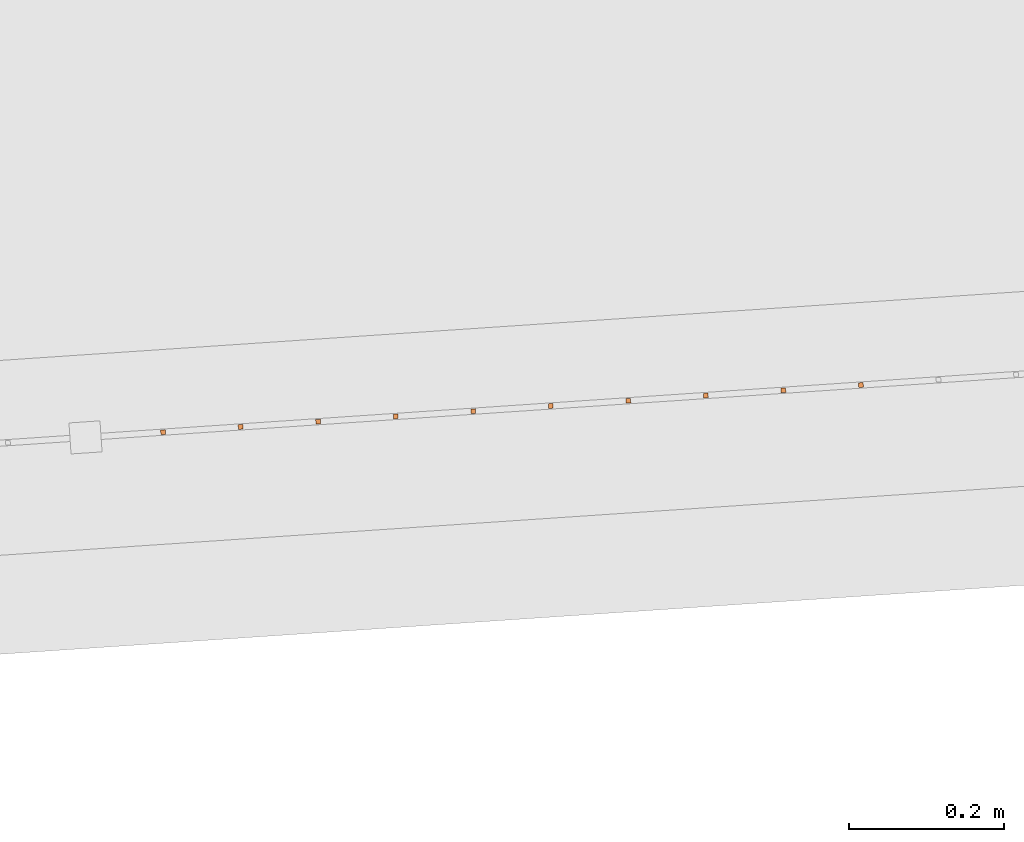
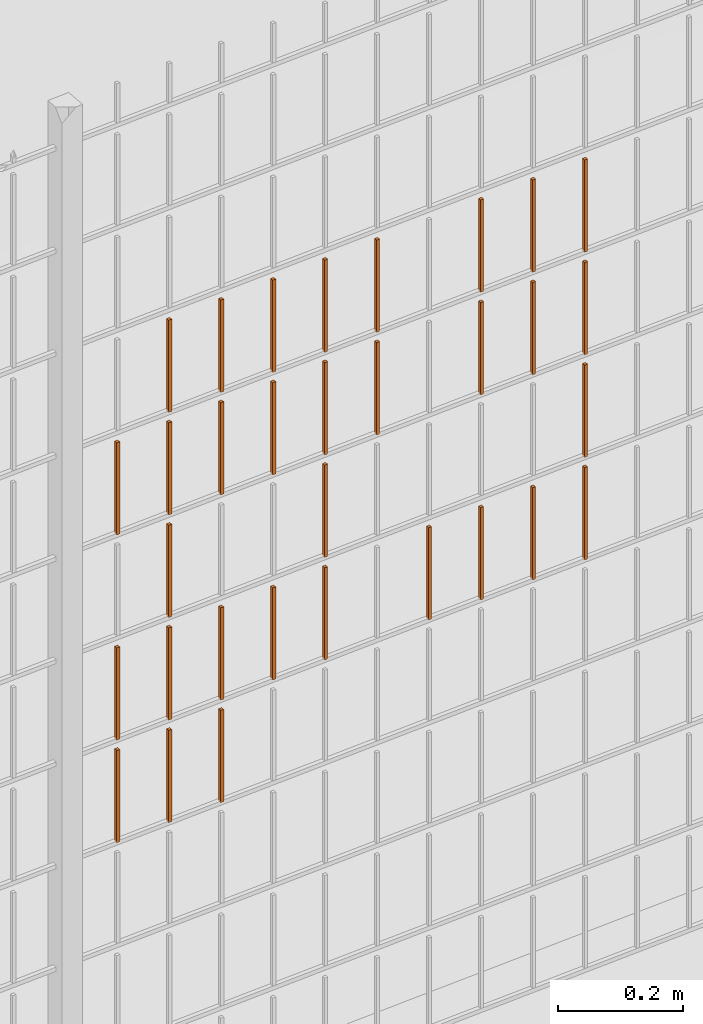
# One storey, part 323 of 1809: 32 proxies, 1 element without a shape of its own.
"""IFC2X3 building model written with IfcOpenShell, lengths in millimetres."""

from ifc_helpers import new_model, entity, si_unit, converted_unit, derived_unit, money_unit, direction, frame, origin_with_axes, place, context, subcontext, project, spatial, faceted_brep, source, transform, mapped, material, type_object, element, aggregate, save


model = new_model("IFC2X3")

# Units and contexts
model_context = context("Model", 3, precision=0.01, world=origin_with_axes(), true_north=direction((0.0, 1.0)))
body_context = subcontext(model_context, "Body", "Model", "MODEL_VIEW")
ifc_project = project(units=[si_unit("LENGTHUNIT", "METRE", prefix="MILLI"), si_unit("AREAUNIT", "SQUARE_METRE"), si_unit("VOLUMEUNIT", "CUBIC_METRE"), converted_unit("PLANEANGLEUNIT", "DEGREE", entity("IfcPlaneAngleMeasure", 0.0174532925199), si_unit("PLANEANGLEUNIT", "RADIAN"), dimensions=[0, 0, 0, 0, 0, 0, 0]), si_unit("SOLIDANGLEUNIT", "STERADIAN"), money_unit("EUR"), converted_unit("TIMEUNIT", "Year", entity("IfcTimeMeasure", 31556926.0), si_unit("TIMEUNIT", "SECOND"), dimensions=[0, 0, 1, 0, 0, 0, 0]), si_unit("MASSUNIT", "GRAM", prefix="KILO"), si_unit("THERMODYNAMICTEMPERATUREUNIT", "DEGREE_CELSIUS"), si_unit("LUMINOUSINTENSITYUNIT", "LUMEN"), si_unit("ENERGYUNIT", "JOULE", prefix="MEGA"), derived_unit("THERMALCONDUCTANCEUNIT", [(si_unit("POWERUNIT", "WATT"), 1), (si_unit("LENGTHUNIT", "METRE"), -1), (si_unit("THERMODYNAMICTEMPERATUREUNIT", "KELVIN"), -1)]), derived_unit("SPECIFICHEATCAPACITYUNIT", [(si_unit("ENERGYUNIT", "JOULE"), 1), (si_unit("MASSUNIT", "GRAM", prefix="KILO"), -1), (si_unit("THERMODYNAMICTEMPERATUREUNIT", "KELVIN"), -1)]), derived_unit("MASSDENSITYUNIT", [(si_unit("MASSUNIT", "GRAM", prefix="KILO"), 1), (si_unit("VOLUMEUNIT", "CUBIC_METRE"), -1)])], contexts=[model_context])

# Site, building, storey
site_placement = place(None, origin_with_axes())
site = spatial("IfcSite", under=ifc_project, at=site_placement, Name="Politse- ja Piirivalveameti ning Päästeameti ühishoone", CompositionType="ELEMENT")
building_placement = place(site_placement, origin_with_axes())
building = spatial("IfcBuilding", under=site, at=building_placement, Name="Politse- ja Piirivalveameti ning Päästeameti ühishoone", CompositionType="ELEMENT")
storey_placement = place(building_placement, origin_with_axes())
storey = spatial("IfcBuildingStorey", under=building, at=storey_placement, Name="Esimene korrus", CompositionType="ELEMENT", Elevation=0.0)

# Proxies
building_element_proxy_type_1 = type_object("IfcBuildingElementProxyType", Name="Railing Type", PredefinedType="NOTDEFINED")
proxy_1_placement = place(storey_placement, frame((89252.001212, -29183.4766571, 203.661247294), z_axis=(0.0, 0.0, 1.0), x_axis=(1.0, 0.0, 0.0)))
proxy_1 = element("IfcBuildingElementProxy", 1, at=proxy_1_placement, inside=storey, type_object=building_element_proxy_type_1, Name="PIIRDEAED")
ifc_material = material(Name="ET-03_Raud")
building_element_proxy_type_2 = type_object("IfcBuildingElementProxyType", Name="IfcBuildingElementProxy", PredefinedType="NOTDEFINED")
shared_shape_1 = source(origin_with_axes(), body_context, "Body", "Brep", [
    faceted_brep([(3.0, 3.0, -0.000752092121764), (-3.0, 3.0, -0.000752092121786), (-3.0, 3.0, 179.99926046), (3.0, 3.0, 179.99926046), (3.0, -3.0, 0.000752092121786), (-3.0, -3.0, 0.000752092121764), (-3.0, -3.0, 180.000764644), (3.0, -3.0, 180.000764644)], [[[0, 1, 2, 3]], [[0, 4, 5, 1]], [[1, 5, 6, 2]], [[3, 2, 6, 7]], [[4, 0, 3, 7]], [[5, 4, 7, 6]]]),
])
proxy_2_placement = place(proxy_1_placement, frame((-37142.0542199, -19806.5803551, 617.901752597), z_axis=(0.0, 0.0, 1.0), x_axis=(1.0, 0.0, 0.0)))
proxy_2 = element("IfcBuildingElementProxy", 2, at=proxy_2_placement, type_object=building_element_proxy_type_2, material=ifc_material, Name="BALUSTER - 001", context=body_context, shape_type="MappedRepresentation", body=[
    mapped(shared_shape_1, transform((0.0, 0.0, 0.0), x_axis=(-0.0673926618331, 0.997726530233, 0.0), y_axis=(-0.997726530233, -0.0673926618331, 0.0), z_axis=(0.0, 0.0, 1.0))),
])
shared_shape_2 = source(origin_with_axes(), body_context, "Body", "Brep", [
    faceted_brep([(3.0, 3.0, -0.000752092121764), (-3.0, 3.0, -0.000752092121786), (-3.0, 3.0, 179.99926046), (3.0, 3.0, 179.99926046), (3.0, -3.0, 0.000752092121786), (-3.0, -3.0, 0.000752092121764), (-3.0, -3.0, 180.000764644), (3.0, -3.0, 180.000764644)], [[[0, 1, 2, 3]], [[0, 4, 5, 1]], [[1, 5, 6, 2]], [[3, 2, 6, 7]], [[4, 0, 3, 7]], [[5, 4, 7, 6]]]),
])
proxy_3_placement = place(proxy_1_placement, frame((-37142.0542199, -19806.5803551, 817.901752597), z_axis=(0.0, 0.0, 1.0), x_axis=(1.0, 0.0, 0.0)))
proxy_3 = element("IfcBuildingElementProxy", 3, at=proxy_3_placement, type_object=building_element_proxy_type_2, material=ifc_material, Name="BALUSTER - 001", context=body_context, shape_type="MappedRepresentation", body=[
    mapped(shared_shape_2, transform((0.0, 0.0, 0.0), x_axis=(-0.0673926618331, 0.997726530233, 0.0), y_axis=(-0.997726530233, -0.0673926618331, 0.0), z_axis=(0.0, 0.0, 1.0))),
])
proxy_4_placement = place(proxy_1_placement, frame((-37142.0542199, -19806.5803551, 1217.9017526), z_axis=(0.0, 0.0, 1.0), x_axis=(1.0, 0.0, 0.0)))
proxy_4 = element("IfcBuildingElementProxy", 4, at=proxy_4_placement, type_object=building_element_proxy_type_2, material=ifc_material, Name="BALUSTER - 001", context=body_context, shape_type="MappedRepresentation", body=[
    mapped(shared_shape_2, transform((0.0, 0.0, 0.0), x_axis=(-0.0673926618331, 0.997726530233, 0.0), y_axis=(-0.997726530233, -0.0673926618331, 0.0), z_axis=(0.0, 0.0, 1.0))),
])
shared_shape_3 = source(origin_with_axes(), body_context, "Body", "Brep", [
    faceted_brep([(3.0, 3.0, -0.000752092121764), (-3.0, 3.0, -0.000752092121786), (-3.0, 3.0, 179.99926046), (3.0, 3.0, 179.99926046), (3.0, -3.0, 0.000752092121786), (-3.0, -3.0, 0.000752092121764), (-3.0, -3.0, 180.000764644), (3.0, -3.0, 180.000764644)], [[[0, 1, 2, 3]], [[0, 4, 5, 1]], [[1, 5, 6, 2]], [[3, 2, 6, 7]], [[4, 0, 3, 7]], [[5, 4, 7, 6]]]),
])
proxy_5_placement = place(proxy_1_placement, frame((-37042.2815668, -19799.8410889, 1217.92682233), z_axis=(0.0, 0.0, 1.0), x_axis=(1.0, 0.0, 0.0)))
proxy_5 = element("IfcBuildingElementProxy", 5, at=proxy_5_placement, type_object=building_element_proxy_type_2, material=ifc_material, Name="BALUSTER - 001", context=body_context, shape_type="MappedRepresentation", body=[
    mapped(shared_shape_3, transform((0.0, 0.0, 0.0), x_axis=(-0.0673926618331, 0.997726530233, 0.0), y_axis=(-0.997726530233, -0.0673926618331, 0.0), z_axis=(0.0, 0.0, 1.0))),
])
shared_shape_4 = source(origin_with_axes(), body_context, "Body", "Brep", [
    faceted_brep([(3.0, 3.0, -0.000752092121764), (-3.0, 3.0, -0.000752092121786), (-3.0, 3.0, 179.99926046), (3.0, 3.0, 179.99926046), (3.0, -3.0, 0.000752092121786), (-3.0, -3.0, 0.000752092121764), (-3.0, -3.0, 180.000764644), (3.0, -3.0, 180.000764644)], [[[0, 1, 2, 3]], [[0, 4, 5, 1]], [[1, 5, 6, 2]], [[3, 2, 6, 7]], [[4, 0, 3, 7]], [[5, 4, 7, 6]]]),
])
proxy_6_placement = place(proxy_1_placement, frame((-37042.2815668, -19799.8410889, 1417.92682233), z_axis=(0.0, 0.0, 1.0), x_axis=(1.0, 0.0, 0.0)))
proxy_6 = element("IfcBuildingElementProxy", 6, at=proxy_6_placement, type_object=building_element_proxy_type_2, material=ifc_material, Name="BALUSTER - 001", context=body_context, shape_type="MappedRepresentation", body=[
    mapped(shared_shape_4, transform((0.0, 0.0, 0.0), x_axis=(-0.0673926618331, 0.997726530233, 0.0), y_axis=(-0.997726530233, -0.0673926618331, 0.0), z_axis=(0.0, 0.0, 1.0))),
])
shared_shape_5 = source(origin_with_axes(), body_context, "Body", "Brep", [
    faceted_brep([(3.0, 3.0, -0.000752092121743), (-3.0, 3.0, -0.000752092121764), (-3.0, 3.0, 179.99926046), (3.0, 3.0, 179.99926046), (3.0, -3.0, 0.000752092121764), (-3.0, -3.0, 0.000752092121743), (-3.0, -3.0, 180.000764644), (3.0, -3.0, 180.000764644)], [[[0, 1, 2, 3]], [[0, 4, 5, 1]], [[1, 5, 6, 2]], [[3, 2, 6, 7]], [[4, 0, 3, 7]], [[5, 4, 7, 6]]]),
])
proxy_7_placement = place(proxy_1_placement, frame((-36343.8729957, -19752.6662256, 818.102310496), z_axis=(0.0, 0.0, 1.0), x_axis=(1.0, 0.0, 0.0)))
proxy_7 = element("IfcBuildingElementProxy", 7, at=proxy_7_placement, type_object=building_element_proxy_type_2, material=ifc_material, Name="BALUSTER - 001", context=body_context, shape_type="MappedRepresentation", body=[
    mapped(shared_shape_5, transform((0.0, 0.0, 0.0), x_axis=(-0.0673926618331, 0.997726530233, 0.0), y_axis=(-0.997726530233, -0.0673926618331, 0.0), z_axis=(0.0, 0.0, 1.0))),
])
shared_shape_6 = source(origin_with_axes(), body_context, "Body", "Brep", [
    faceted_brep([(3.0, 3.0, -0.000752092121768), (-3.0, 3.0, -0.000752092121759), (-3.00000000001, 2.99999999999, 179.99926046), (2.99999999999, 2.99999999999, 179.99926046), (3.0, -3.0, 0.000752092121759), (-3.0, -3.0, 0.000752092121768), (-3.00000000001, -3.00000000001, 180.000764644), (2.99999999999, -3.00000000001, 180.000764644)], [[[0, 1, 2, 3]], [[0, 4, 5, 1]], [[1, 5, 6, 2]], [[3, 2, 6, 7]], [[4, 0, 3, 7]], [[5, 4, 7, 6]]]),
])
proxy_8_placement = place(proxy_1_placement, frame((-36742.9636078, -19779.6232904, 1018.00203155), z_axis=(0.0, 0.0, 1.0), x_axis=(1.0, 0.0, 0.0)))
proxy_8 = element("IfcBuildingElementProxy", 8, at=proxy_8_placement, type_object=building_element_proxy_type_2, material=ifc_material, Name="BALUSTER - 001", context=body_context, shape_type="MappedRepresentation", body=[
    mapped(shared_shape_6, transform((0.0, 0.0, 0.0), x_axis=(-0.0673926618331, 0.997726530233, 0.0), y_axis=(-0.997726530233, -0.0673926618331, 0.0), z_axis=(0.0, 0.0, 1.0))),
])
shared_shape_7 = source(origin_with_axes(), body_context, "Body", "Brep", [
    faceted_brep([(3.0, 3.0, -0.000752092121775), (-3.0, 3.0, -0.000752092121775), (-3.0, 3.0, 179.99926046), (3.0, 3.0, 179.99926046), (3.0, -3.0, 0.000752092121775), (-3.0, -3.0, 0.000752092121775), (-3.0, -3.0, 180.000764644), (3.0, -3.0, 180.000764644)], [[[0, 1, 2, 3]], [[0, 4, 5, 1]], [[1, 5, 6, 2]], [[3, 2, 6, 7]], [[4, 0, 3, 7]], [[5, 4, 7, 6]]]),
])
proxy_9_placement = place(proxy_1_placement, frame((-36543.4183017, -19766.144758, 818.052171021), z_axis=(0.0, 0.0, 1.0), x_axis=(1.0, 0.0, 0.0)))
proxy_9 = element("IfcBuildingElementProxy", 9, at=proxy_9_placement, type_object=building_element_proxy_type_2, material=ifc_material, Name="BALUSTER - 001", context=body_context, shape_type="MappedRepresentation", body=[
    mapped(shared_shape_7, transform((0.0, 0.0, 0.0), x_axis=(-0.0673926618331, 0.997726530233, 0.0), y_axis=(-0.997726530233, -0.0673926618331, 0.0), z_axis=(0.0, 0.0, 1.0))),
])
shared_shape_8 = source(origin_with_axes(), body_context, "Body", "Brep", [
    faceted_brep([(3.0, 3.0, -0.000752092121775), (-3.0, 3.0, -0.000752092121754), (-3.0, 3.0, 179.99926046), (3.0, 3.0, 179.99926046), (3.0, -3.0, 0.000752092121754), (-3.0, -3.0, 0.000752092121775), (-3.0, -3.0, 180.000764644), (3.0, -3.0, 180.000764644)], [[[0, 1, 2, 3]], [[0, 4, 5, 1]], [[1, 5, 6, 2]], [[3, 2, 6, 7]], [[4, 0, 3, 7]], [[5, 4, 7, 6]]]),
])
proxy_10_placement = place(proxy_1_placement, frame((-36742.9636078, -19779.6232904, 818.002031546), z_axis=(0.0, 0.0, 1.0), x_axis=(1.0, 0.0, 0.0)))
proxy_10 = element("IfcBuildingElementProxy", 10, at=proxy_10_placement, type_object=building_element_proxy_type_2, material=ifc_material, Name="BALUSTER - 001", context=body_context, shape_type="MappedRepresentation", body=[
    mapped(shared_shape_8, transform((0.0, 0.0, 0.0), x_axis=(-0.0673926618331, 0.997726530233, 0.0), y_axis=(-0.997726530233, -0.0673926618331, 0.0), z_axis=(0.0, 0.0, 1.0))),
])
shared_shape_9 = source(origin_with_axes(), body_context, "Body", "Brep", [
    faceted_brep([(3.0, 3.0, -0.000752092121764), (-3.0, 3.0, -0.000752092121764), (-3.0, 3.0, 179.99926046), (3.0, 3.0, 179.99926046), (3.0, -3.0, 0.000752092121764), (-3.0, -3.0, 0.000752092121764), (-3.0, -3.0, 180.000764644), (3.0, -3.0, 180.000764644)], [[[0, 1, 2, 3]], [[0, 4, 5, 1]], [[1, 5, 6, 2]], [[3, 2, 6, 7]], [[4, 0, 3, 7]], [[5, 4, 7, 6]]]),
])
proxy_11_placement = place(proxy_1_placement, frame((-36742.9636078, -19779.6232904, 1218.00203155), z_axis=(0.0, 0.0, 1.0), x_axis=(1.0, 0.0, 0.0)))
proxy_11 = element("IfcBuildingElementProxy", 11, at=proxy_11_placement, type_object=building_element_proxy_type_2, material=ifc_material, Name="BALUSTER - 001", context=body_context, shape_type="MappedRepresentation", body=[
    mapped(shared_shape_9, transform((0.0, 0.0, 0.0), x_axis=(-0.0673926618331, 0.997726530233, 0.0), y_axis=(-0.997726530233, -0.0673926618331, 0.0), z_axis=(0.0, 0.0, 1.0))),
])
shared_shape_10 = source(origin_with_axes(), body_context, "Body", "Brep", [
    faceted_brep([(3.0, 3.0, -0.000752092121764), (-3.0, 3.0, -0.000752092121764), (-3.0, 3.0, 179.99926046), (3.0, 3.0, 179.99926046), (3.0, -3.0, 0.000752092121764), (-3.0, -3.0, 0.000752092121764), (-3.0, -3.0, 180.000764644), (3.0, -3.0, 180.000764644)], [[[0, 1, 2, 3]], [[0, 4, 5, 1]], [[1, 5, 6, 2]], [[3, 2, 6, 7]], [[4, 0, 3, 7]], [[5, 4, 7, 6]]]),
])
proxy_12_placement = place(proxy_1_placement, frame((-36742.9636078, -19779.6232904, 1418.00203155), z_axis=(0.0, 0.0, 1.0), x_axis=(1.0, 0.0, 0.0)))
proxy_12 = element("IfcBuildingElementProxy", 12, at=proxy_12_placement, type_object=building_element_proxy_type_2, material=ifc_material, Name="BALUSTER - 001", context=body_context, shape_type="MappedRepresentation", body=[
    mapped(shared_shape_10, transform((0.0, 0.0, 0.0), x_axis=(-0.0673926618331, 0.997726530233, 0.0), y_axis=(-0.997726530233, -0.0673926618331, 0.0), z_axis=(0.0, 0.0, 1.0))),
])
shared_shape_11 = source(origin_with_axes(), body_context, "Body", "Brep", [
    faceted_brep([(3.0, 3.0, -0.000752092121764), (-3.0, 3.0, -0.000752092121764), (-3.0, 3.0, 179.99926046), (3.0, 3.0, 179.99926046), (3.0, -3.0, 0.000752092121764), (-3.0, -3.0, 0.000752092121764), (-3.0, -3.0, 180.000764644), (3.0, -3.0, 180.000764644)], [[[0, 1, 2, 3]], [[0, 4, 5, 1]], [[1, 5, 6, 2]], [[3, 2, 6, 7]], [[4, 0, 3, 7]], [[5, 4, 7, 6]]]),
])
proxy_13_placement = place(proxy_1_placement, frame((-36842.7362608, -19786.3625566, 1417.97696181), z_axis=(0.0, 0.0, 1.0), x_axis=(1.0, 0.0, 0.0)))
proxy_13 = element("IfcBuildingElementProxy", 13, at=proxy_13_placement, type_object=building_element_proxy_type_2, material=ifc_material, Name="BALUSTER - 001", context=body_context, shape_type="MappedRepresentation", body=[
    mapped(shared_shape_11, transform((0.0, 0.0, 0.0), x_axis=(-0.0673926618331, 0.997726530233, 0.0), y_axis=(-0.997726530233, -0.0673926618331, 0.0), z_axis=(0.0, 0.0, 1.0))),
])
shared_shape_12 = source(origin_with_axes(), body_context, "Body", "Brep", [
    faceted_brep([(3.0, 3.0, -0.000752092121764), (-3.0, 3.0, -0.000752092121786), (-3.0, 3.0, 179.99926046), (3.0, 3.0, 179.99926046), (3.0, -3.0, 0.000752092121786), (-3.0, -3.0, 0.000752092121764), (-3.0, -3.0, 180.000764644), (3.0, -3.0, 180.000764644)], [[[0, 1, 2, 3]], [[0, 4, 5, 1]], [[1, 5, 6, 2]], [[3, 2, 6, 7]], [[4, 0, 3, 7]], [[5, 4, 7, 6]]]),
])
proxy_14_placement = place(proxy_1_placement, frame((-37042.2815668, -19799.8410889, 617.926822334), z_axis=(0.0, 0.0, 1.0), x_axis=(1.0, 0.0, 0.0)))
proxy_14 = element("IfcBuildingElementProxy", 14, at=proxy_14_placement, type_object=building_element_proxy_type_2, material=ifc_material, Name="BALUSTER - 001", context=body_context, shape_type="MappedRepresentation", body=[
    mapped(shared_shape_12, transform((0.0, 0.0, 0.0), x_axis=(-0.0673926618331, 0.997726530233, 0.0), y_axis=(-0.997726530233, -0.0673926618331, 0.0), z_axis=(0.0, 0.0, 1.0))),
])
shared_shape_13 = source(origin_with_axes(), body_context, "Body", "Brep", [
    faceted_brep([(3.0, 3.0, -0.000752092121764), (-3.0, 3.0, -0.000752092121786), (-3.0, 3.0, 179.99926046), (3.0, 3.0, 179.99926046), (3.0, -3.0, 0.000752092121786), (-3.0, -3.0, 0.000752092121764), (-3.0, -3.0, 180.000764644), (3.0, -3.0, 180.000764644)], [[[0, 1, 2, 3]], [[0, 4, 5, 1]], [[1, 5, 6, 2]], [[3, 2, 6, 7]], [[4, 0, 3, 7]], [[5, 4, 7, 6]]]),
])
proxy_15_placement = place(proxy_1_placement, frame((-36443.6456487, -19759.4054918, 1218.07724076), z_axis=(0.0, 0.0, 1.0), x_axis=(1.0, 0.0, 0.0)))
proxy_15 = element("IfcBuildingElementProxy", 15, at=proxy_15_placement, type_object=building_element_proxy_type_2, material=ifc_material, Name="BALUSTER - 001", context=body_context, shape_type="MappedRepresentation", body=[
    mapped(shared_shape_13, transform((0.0, 0.0, 0.0), x_axis=(-0.0673926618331, 0.997726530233, 0.0), y_axis=(-0.997726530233, -0.0673926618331, 0.0), z_axis=(0.0, 0.0, 1.0))),
])
shared_shape_14 = source(origin_with_axes(), body_context, "Body", "Brep", [
    faceted_brep([(3.0, 3.0, -0.000752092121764), (-3.0, 3.0, -0.000752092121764), (-3.0, 3.0, 179.99926046), (3.0, 3.0, 179.99926046), (3.0, -3.0, 0.000752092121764), (-3.0, -3.0, 0.000752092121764), (-3.0, -3.0, 180.000764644), (3.0, -3.0, 180.000764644)], [[[0, 1, 2, 3]], [[0, 4, 5, 1]], [[1, 5, 6, 2]], [[3, 2, 6, 7]], [[4, 0, 3, 7]], [[5, 4, 7, 6]]]),
])
proxy_16_placement = place(proxy_1_placement, frame((-36842.7362608, -19786.3625566, 817.976961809), z_axis=(0.0, 0.0, 1.0), x_axis=(1.0, 0.0, 0.0)))
proxy_16 = element("IfcBuildingElementProxy", 16, at=proxy_16_placement, type_object=building_element_proxy_type_2, material=ifc_material, Name="BALUSTER - 001", context=body_context, shape_type="MappedRepresentation", body=[
    mapped(shared_shape_14, transform((0.0, 0.0, 0.0), x_axis=(-0.0673926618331, 0.997726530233, 0.0), y_axis=(-0.997726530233, -0.0673926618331, 0.0), z_axis=(0.0, 0.0, 1.0))),
])
proxy_17_placement = place(proxy_1_placement, frame((-36842.7362608, -19786.3625566, 1217.97696181), z_axis=(0.0, 0.0, 1.0), x_axis=(1.0, 0.0, 0.0)))
proxy_17 = element("IfcBuildingElementProxy", 17, at=proxy_17_placement, type_object=building_element_proxy_type_2, material=ifc_material, Name="BALUSTER - 001", context=body_context, shape_type="MappedRepresentation", body=[
    mapped(shared_shape_14, transform((0.0, 0.0, 0.0), x_axis=(-0.0673926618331, 0.997726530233, 0.0), y_axis=(-0.997726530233, -0.0673926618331, 0.0), z_axis=(0.0, 0.0, 1.0))),
])
shared_shape_15 = source(origin_with_axes(), body_context, "Body", "Brep", [
    faceted_brep([(3.0, 3.0, -0.000752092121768), (-3.0, 3.0, -0.000752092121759), (-3.00000000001, 2.99999999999, 179.99926046), (2.99999999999, 2.99999999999, 179.99926046), (3.0, -3.0, 0.000752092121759), (-3.0, -3.0, 0.000752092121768), (-3.00000000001, -3.00000000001, 180.000764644), (2.99999999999, -3.00000000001, 180.000764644)], [[[0, 1, 2, 3]], [[0, 4, 5, 1]], [[1, 5, 6, 2]], [[3, 2, 6, 7]], [[4, 0, 3, 7]], [[5, 4, 7, 6]]]),
])
proxy_18_placement = place(proxy_1_placement, frame((-37042.2815668, -19799.8410889, 1017.92682233), z_axis=(0.0, 0.0, 1.0), x_axis=(1.0, 0.0, 0.0)))
proxy_18 = element("IfcBuildingElementProxy", 18, at=proxy_18_placement, type_object=building_element_proxy_type_2, material=ifc_material, Name="BALUSTER - 001", context=body_context, shape_type="MappedRepresentation", body=[
    mapped(shared_shape_15, transform((0.0, 0.0, 0.0), x_axis=(-0.0673926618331, 0.997726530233, 0.0), y_axis=(-0.997726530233, -0.0673926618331, 0.0), z_axis=(0.0, 0.0, 1.0))),
])
shared_shape_16 = source(origin_with_axes(), body_context, "Body", "Brep", [
    faceted_brep([(3.0, 3.0, -0.000752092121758), (-3.0, 3.0, -0.00075209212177), (-3.00000000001, 3.0, 179.99926046), (2.99999999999, 3.0, 179.99926046), (3.0, -3.0, 0.00075209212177), (-3.0, -3.0, 0.000752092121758), (-3.00000000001, -3.0, 180.000764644), (2.99999999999, -3.0, 180.000764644)], [[[0, 1, 2, 3]], [[0, 4, 5, 1]], [[1, 5, 6, 2]], [[3, 2, 6, 7]], [[4, 0, 3, 7]], [[5, 4, 7, 6]]]),
])
proxy_19_placement = place(proxy_1_placement, frame((-36244.1003426, -19745.9269595, 1018.12738023), z_axis=(0.0, 0.0, 1.0), x_axis=(1.0, 0.0, 0.0)))
proxy_19 = element("IfcBuildingElementProxy", 19, at=proxy_19_placement, type_object=building_element_proxy_type_2, material=ifc_material, Name="BALUSTER - 001", context=body_context, shape_type="MappedRepresentation", body=[
    mapped(shared_shape_16, transform((0.0, 0.0, 0.0), x_axis=(-0.0673926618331, 0.997726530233, 0.0), y_axis=(-0.997726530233, -0.0673926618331, 0.0), z_axis=(0.0, 0.0, 1.0))),
])
shared_shape_17 = source(origin_with_axes(), body_context, "Body", "Brep", [
    faceted_brep([(3.0, 3.0, -0.000752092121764), (-3.0, 3.0, -0.000752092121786), (-3.0, 3.0, 179.99926046), (3.0, 3.0, 179.99926046), (3.0, -3.0, 0.000752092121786), (-3.0, -3.0, 0.000752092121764), (-3.0, -3.0, 180.000764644), (3.0, -3.0, 180.000764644)], [[[0, 1, 2, 3]], [[0, 4, 5, 1]], [[1, 5, 6, 2]], [[3, 2, 6, 7]], [[4, 0, 3, 7]], [[5, 4, 7, 6]]]),
])
proxy_20_placement = place(proxy_1_placement, frame((-37042.2815668, -19799.8410889, 817.926822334), z_axis=(0.0, 0.0, 1.0), x_axis=(1.0, 0.0, 0.0)))
proxy_20 = element("IfcBuildingElementProxy", 20, at=proxy_20_placement, type_object=building_element_proxy_type_2, material=ifc_material, Name="BALUSTER - 001", context=body_context, shape_type="MappedRepresentation", body=[
    mapped(shared_shape_17, transform((0.0, 0.0, 0.0), x_axis=(-0.0673926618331, 0.997726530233, 0.0), y_axis=(-0.997726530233, -0.0673926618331, 0.0), z_axis=(0.0, 0.0, 1.0))),
])
shared_shape_18 = source(origin_with_axes(), body_context, "Body", "Brep", [
    faceted_brep([(3.0, 3.0, -0.000752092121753), (-3.0, 3.0, -0.000752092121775), (-3.0, 3.0, 179.99926046), (3.0, 3.0, 179.99926046), (3.0, -3.0, 0.000752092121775), (-3.0, -3.0, 0.000752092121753), (-3.0, -3.0, 180.000764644), (3.0, -3.0, 180.000764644)], [[[0, 1, 2, 3]], [[0, 4, 5, 1]], [[1, 5, 6, 2]], [[3, 2, 6, 7]], [[4, 0, 3, 7]], [[5, 4, 7, 6]]]),
])
proxy_21_placement = place(proxy_1_placement, frame((-36643.1909547, -19772.8840242, 1218.02710128), z_axis=(0.0, 0.0, 1.0), x_axis=(1.0, 0.0, 0.0)))
proxy_21 = element("IfcBuildingElementProxy", 21, at=proxy_21_placement, type_object=building_element_proxy_type_2, material=ifc_material, Name="BALUSTER - 001", context=body_context, shape_type="MappedRepresentation", body=[
    mapped(shared_shape_18, transform((0.0, 0.0, 0.0), x_axis=(-0.0673926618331, 0.997726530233, 0.0), y_axis=(-0.997726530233, -0.0673926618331, 0.0), z_axis=(0.0, 0.0, 1.0))),
])
shared_shape_19 = source(origin_with_axes(), body_context, "Body", "Brep", [
    faceted_brep([(3.0, 3.0, -0.000752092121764), (-3.0, 3.0, -0.000752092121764), (-3.0, 3.0, 179.99926046), (3.0, 3.0, 179.99926046), (3.0, -3.0, 0.000752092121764), (-3.0, -3.0, 0.000752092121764), (-3.0, -3.0, 180.000764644), (3.0, -3.0, 180.000764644)], [[[0, 1, 2, 3]], [[0, 4, 5, 1]], [[1, 5, 6, 2]], [[3, 2, 6, 7]], [[4, 0, 3, 7]], [[5, 4, 7, 6]]]),
])
proxy_22_placement = place(proxy_1_placement, frame((-36942.5089138, -19793.1018227, 617.951892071), z_axis=(0.0, 0.0, 1.0), x_axis=(1.0, 0.0, 0.0)))
proxy_22 = element("IfcBuildingElementProxy", 22, at=proxy_22_placement, type_object=building_element_proxy_type_2, material=ifc_material, Name="BALUSTER - 001", context=body_context, shape_type="MappedRepresentation", body=[
    mapped(shared_shape_19, transform((0.0, 0.0, 0.0), x_axis=(-0.0673926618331, 0.997726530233, 0.0), y_axis=(-0.997726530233, -0.0673926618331, 0.0), z_axis=(0.0, 0.0, 1.0))),
])
shared_shape_20 = source(origin_with_axes(), body_context, "Body", "Brep", [
    faceted_brep([(3.0, 3.0, -0.000752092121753), (-3.0, 3.0, -0.000752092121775), (-3.0, 3.0, 179.99926046), (3.0, 3.0, 179.99926046), (3.0, -3.0, 0.000752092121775), (-3.0, -3.0, 0.000752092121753), (-3.0, -3.0, 180.000764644), (3.0, -3.0, 180.000764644)], [[[0, 1, 2, 3]], [[0, 4, 5, 1]], [[1, 5, 6, 2]], [[3, 2, 6, 7]], [[4, 0, 3, 7]], [[5, 4, 7, 6]]]),
])
proxy_23_placement = place(proxy_1_placement, frame((-36244.1003426, -19745.9269595, 818.127380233), z_axis=(0.0, 0.0, 1.0), x_axis=(1.0, 0.0, 0.0)))
proxy_23 = element("IfcBuildingElementProxy", 23, at=proxy_23_placement, type_object=building_element_proxy_type_2, material=ifc_material, Name="BALUSTER - 001", context=body_context, shape_type="MappedRepresentation", body=[
    mapped(shared_shape_20, transform((0.0, 0.0, 0.0), x_axis=(-0.0673926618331, 0.997726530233, 0.0), y_axis=(-0.997726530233, -0.0673926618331, 0.0), z_axis=(0.0, 0.0, 1.0))),
])
proxy_24_placement = place(proxy_1_placement, frame((-36244.1003426, -19745.9269595, 1218.12738023), z_axis=(0.0, 0.0, 1.0), x_axis=(1.0, 0.0, 0.0)))
proxy_24 = element("IfcBuildingElementProxy", 24, at=proxy_24_placement, type_object=building_element_proxy_type_2, material=ifc_material, Name="BALUSTER - 001", context=body_context, shape_type="MappedRepresentation", body=[
    mapped(shared_shape_20, transform((0.0, 0.0, 0.0), x_axis=(-0.0673926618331, 0.997726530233, 0.0), y_axis=(-0.997726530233, -0.0673926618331, 0.0), z_axis=(0.0, 0.0, 1.0))),
])
shared_shape_21 = source(origin_with_axes(), body_context, "Body", "Brep", [
    faceted_brep([(3.0, 3.0, -0.000752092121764), (-3.0, 3.0, -0.000752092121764), (-3.0, 3.0, 179.99926046), (3.0, 3.0, 179.99926046), (3.0, -3.0, 0.000752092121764), (-3.0, -3.0, 0.000752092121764), (-3.0, -3.0, 180.000764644), (3.0, -3.0, 180.000764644)], [[[0, 1, 2, 3]], [[0, 4, 5, 1]], [[1, 5, 6, 2]], [[3, 2, 6, 7]], [[4, 0, 3, 7]], [[5, 4, 7, 6]]]),
])
proxy_25_placement = place(proxy_1_placement, frame((-36942.5089138, -19793.1018227, 1217.95189207), z_axis=(0.0, 0.0, 1.0), x_axis=(1.0, 0.0, 0.0)))
proxy_25 = element("IfcBuildingElementProxy", 25, at=proxy_25_placement, type_object=building_element_proxy_type_2, material=ifc_material, Name="BALUSTER - 001", context=body_context, shape_type="MappedRepresentation", body=[
    mapped(shared_shape_21, transform((0.0, 0.0, 0.0), x_axis=(-0.0673926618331, 0.997726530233, 0.0), y_axis=(-0.997726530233, -0.0673926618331, 0.0), z_axis=(0.0, 0.0, 1.0))),
])
shared_shape_22 = source(origin_with_axes(), body_context, "Body", "Brep", [
    faceted_brep([(3.0, 3.0, -0.000752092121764), (-3.0, 3.0, -0.000752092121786), (-3.0, 3.0, 179.99926046), (3.0, 3.0, 179.99926046), (3.0, -3.0, 0.000752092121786), (-3.0, -3.0, 0.000752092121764), (-3.0, -3.0, 180.000764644), (3.0, -3.0, 180.000764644)], [[[0, 1, 2, 3]], [[0, 4, 5, 1]], [[1, 5, 6, 2]], [[3, 2, 6, 7]], [[4, 0, 3, 7]], [[5, 4, 7, 6]]]),
])
proxy_26_placement = place(proxy_1_placement, frame((-36443.6456487, -19759.4054918, 1418.07724076), z_axis=(0.0, 0.0, 1.0), x_axis=(1.0, 0.0, 0.0)))
proxy_26 = element("IfcBuildingElementProxy", 26, at=proxy_26_placement, type_object=building_element_proxy_type_2, material=ifc_material, Name="BALUSTER - 001", context=body_context, shape_type="MappedRepresentation", body=[
    mapped(shared_shape_22, transform((0.0, 0.0, 0.0), x_axis=(-0.0673926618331, 0.997726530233, 0.0), y_axis=(-0.997726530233, -0.0673926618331, 0.0), z_axis=(0.0, 0.0, 1.0))),
])
shared_shape_23 = source(origin_with_axes(), body_context, "Body", "Brep", [
    faceted_brep([(3.0, 3.0, -0.000752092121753), (-3.0, 3.0, -0.000752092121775), (-3.0, 3.0, 179.99926046), (3.0, 3.0, 179.99926046), (3.0, -3.0, 0.000752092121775), (-3.0, -3.0, 0.000752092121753), (-3.0, -3.0, 180.000764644), (3.0, -3.0, 180.000764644)], [[[0, 1, 2, 3]], [[0, 4, 5, 1]], [[1, 5, 6, 2]], [[3, 2, 6, 7]], [[4, 0, 3, 7]], [[5, 4, 7, 6]]]),
])
proxy_27_placement = place(proxy_1_placement, frame((-36244.1003426, -19745.9269595, 1418.12738023), z_axis=(0.0, 0.0, 1.0), x_axis=(1.0, 0.0, 0.0)))
proxy_27 = element("IfcBuildingElementProxy", 27, at=proxy_27_placement, type_object=building_element_proxy_type_2, material=ifc_material, Name="BALUSTER - 001", context=body_context, shape_type="MappedRepresentation", body=[
    mapped(shared_shape_23, transform((0.0, 0.0, 0.0), x_axis=(-0.0673926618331, 0.997726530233, 0.0), y_axis=(-0.997726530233, -0.0673926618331, 0.0), z_axis=(0.0, 0.0, 1.0))),
])
shared_shape_24 = source(origin_with_axes(), body_context, "Body", "Brep", [
    faceted_brep([(3.0, 3.0, -0.000752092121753), (-3.0, 3.0, -0.000752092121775), (-3.0, 3.0, 179.99926046), (3.0, 3.0, 179.99926046), (3.0, -3.0, 0.000752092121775), (-3.0, -3.0, 0.000752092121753), (-3.0, -3.0, 180.000764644), (3.0, -3.0, 180.000764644)], [[[0, 1, 2, 3]], [[0, 4, 5, 1]], [[1, 5, 6, 2]], [[3, 2, 6, 7]], [[4, 0, 3, 7]], [[5, 4, 7, 6]]]),
])
proxy_28_placement = place(proxy_1_placement, frame((-36643.1909547, -19772.8840242, 1418.02710128), z_axis=(0.0, 0.0, 1.0), x_axis=(1.0, 0.0, 0.0)))
proxy_28 = element("IfcBuildingElementProxy", 28, at=proxy_28_placement, type_object=building_element_proxy_type_2, material=ifc_material, Name="BALUSTER - 001", context=body_context, shape_type="MappedRepresentation", body=[
    mapped(shared_shape_24, transform((0.0, 0.0, 0.0), x_axis=(-0.0673926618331, 0.997726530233, 0.0), y_axis=(-0.997726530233, -0.0673926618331, 0.0), z_axis=(0.0, 0.0, 1.0))),
])
shared_shape_25 = source(origin_with_axes(), body_context, "Body", "Brep", [
    faceted_brep([(3.0, 3.0, -0.000752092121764), (-3.0, 3.0, -0.000752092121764), (-3.0, 3.0, 179.99926046), (3.0, 3.0, 179.99926046), (3.0, -3.0, 0.000752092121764), (-3.0, -3.0, 0.000752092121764), (-3.0, -3.0, 180.000764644), (3.0, -3.0, 180.000764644)], [[[0, 1, 2, 3]], [[0, 4, 5, 1]], [[1, 5, 6, 2]], [[3, 2, 6, 7]], [[4, 0, 3, 7]], [[5, 4, 7, 6]]]),
])
proxy_29_placement = place(proxy_1_placement, frame((-36942.5089138, -19793.1018227, 1417.95189207), z_axis=(0.0, 0.0, 1.0), x_axis=(1.0, 0.0, 0.0)))
proxy_29 = element("IfcBuildingElementProxy", 29, at=proxy_29_placement, type_object=building_element_proxy_type_2, material=ifc_material, Name="BALUSTER - 001", context=body_context, shape_type="MappedRepresentation", body=[
    mapped(shared_shape_25, transform((0.0, 0.0, 0.0), x_axis=(-0.0673926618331, 0.997726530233, 0.0), y_axis=(-0.997726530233, -0.0673926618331, 0.0), z_axis=(0.0, 0.0, 1.0))),
])
shared_shape_26 = source(origin_with_axes(), body_context, "Body", "Brep", [
    faceted_brep([(3.0, 3.0, -0.000752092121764), (-3.0, 3.0, -0.000752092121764), (-3.0, 3.0, 179.99926046), (3.0, 3.0, 179.99926046), (3.0, -3.0, 0.000752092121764), (-3.0, -3.0, 0.000752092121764), (-3.0, -3.0, 180.000764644), (3.0, -3.0, 180.000764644)], [[[0, 1, 2, 3]], [[0, 4, 5, 1]], [[1, 5, 6, 2]], [[3, 2, 6, 7]], [[4, 0, 3, 7]], [[5, 4, 7, 6]]]),
])
proxy_30_placement = place(proxy_1_placement, frame((-36942.5089138, -19793.1018227, 817.951892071), z_axis=(0.0, 0.0, 1.0), x_axis=(1.0, 0.0, 0.0)))
proxy_30 = element("IfcBuildingElementProxy", 30, at=proxy_30_placement, type_object=building_element_proxy_type_2, material=ifc_material, Name="BALUSTER - 001", context=body_context, shape_type="MappedRepresentation", body=[
    mapped(shared_shape_26, transform((0.0, 0.0, 0.0), x_axis=(-0.0673926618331, 0.997726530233, 0.0), y_axis=(-0.997726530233, -0.0673926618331, 0.0), z_axis=(0.0, 0.0, 1.0))),
])
shared_shape_27 = source(origin_with_axes(), body_context, "Body", "Brep", [
    faceted_brep([(3.0, 3.0, -0.000752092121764), (-3.0, 3.0, -0.000752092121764), (-3.0, 3.0, 179.99926046), (3.0, 3.0, 179.99926046), (3.0, -3.0, 0.000752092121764), (-3.0, -3.0, 0.000752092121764), (-3.0, -3.0, 180.000764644), (3.0, -3.0, 180.000764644)], [[[0, 1, 2, 3]], [[0, 4, 5, 1]], [[1, 5, 6, 2]], [[3, 2, 6, 7]], [[4, 0, 3, 7]], [[5, 4, 7, 6]]]),
])
proxy_31_placement = place(proxy_1_placement, frame((-36443.6456487, -19759.4054918, 818.077240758), z_axis=(0.0, 0.0, 1.0), x_axis=(1.0, 0.0, 0.0)))
proxy_31 = element("IfcBuildingElementProxy", 31, at=proxy_31_placement, type_object=building_element_proxy_type_2, material=ifc_material, Name="BALUSTER - 001", context=body_context, shape_type="MappedRepresentation", body=[
    mapped(shared_shape_27, transform((0.0, 0.0, 0.0), x_axis=(-0.0673926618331, 0.997726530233, 0.0), y_axis=(-0.997726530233, -0.0673926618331, 0.0), z_axis=(0.0, 0.0, 1.0))),
])
shared_shape_28 = source(origin_with_axes(), body_context, "Body", "Brep", [
    faceted_brep([(3.0, 3.0, -0.000752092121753), (-3.0, 3.0, -0.000752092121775), (-3.0, 3.0, 179.99926046), (3.0, 3.0, 179.99926046), (3.0, -3.0, 0.000752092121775), (-3.0, -3.0, 0.000752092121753), (-3.0, -3.0, 180.000764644), (3.0, -3.0, 180.000764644)], [[[0, 1, 2, 3]], [[0, 4, 5, 1]], [[1, 5, 6, 2]], [[3, 2, 6, 7]], [[4, 0, 3, 7]], [[5, 4, 7, 6]]]),
])
proxy_32_placement = place(proxy_1_placement, frame((-36343.8729957, -19752.6662256, 1218.1023105), z_axis=(0.0, 0.0, 1.0), x_axis=(1.0, 0.0, 0.0)))
proxy_32 = element("IfcBuildingElementProxy", 32, at=proxy_32_placement, type_object=building_element_proxy_type_2, material=ifc_material, Name="BALUSTER - 001", context=body_context, shape_type="MappedRepresentation", body=[
    mapped(shared_shape_28, transform((0.0, 0.0, 0.0), x_axis=(-0.0673926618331, 0.997726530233, 0.0), y_axis=(-0.997726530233, -0.0673926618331, 0.0), z_axis=(0.0, 0.0, 1.0))),
])
shared_shape_29 = source(origin_with_axes(), body_context, "Body", "Brep", [
    faceted_brep([(3.0, 3.0, -0.000752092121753), (-3.0, 3.0, -0.000752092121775), (-3.0, 3.0, 179.99926046), (3.0, 3.0, 179.99926046), (3.0, -3.0, 0.000752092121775), (-3.0, -3.0, 0.000752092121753), (-3.0, -3.0, 180.000764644), (3.0, -3.0, 180.000764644)], [[[0, 1, 2, 3]], [[0, 4, 5, 1]], [[1, 5, 6, 2]], [[3, 2, 6, 7]], [[4, 0, 3, 7]], [[5, 4, 7, 6]]]),
])
proxy_33_placement = place(proxy_1_placement, frame((-36343.8729957, -19752.6662256, 1418.1023105), z_axis=(0.0, 0.0, 1.0), x_axis=(1.0, 0.0, 0.0)))
proxy_33 = element("IfcBuildingElementProxy", 33, at=proxy_33_placement, type_object=building_element_proxy_type_2, material=ifc_material, Name="BALUSTER - 001", context=body_context, shape_type="MappedRepresentation", body=[
    mapped(shared_shape_29, transform((0.0, 0.0, 0.0), x_axis=(-0.0673926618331, 0.997726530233, 0.0), y_axis=(-0.997726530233, -0.0673926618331, 0.0), z_axis=(0.0, 0.0, 1.0))),
])
aggregate(proxy_1, [proxy_22, proxy_14, proxy_2, proxy_23, proxy_7, proxy_31, proxy_9, proxy_10, proxy_16, proxy_30, proxy_20, proxy_3, proxy_19, proxy_8, proxy_18, proxy_24, proxy_32, proxy_15, proxy_21, proxy_11, proxy_17, proxy_25, proxy_5, proxy_4, proxy_27, proxy_33, proxy_26, proxy_28, proxy_12, proxy_13, proxy_29, proxy_6])

save(model, "model.ifc")
